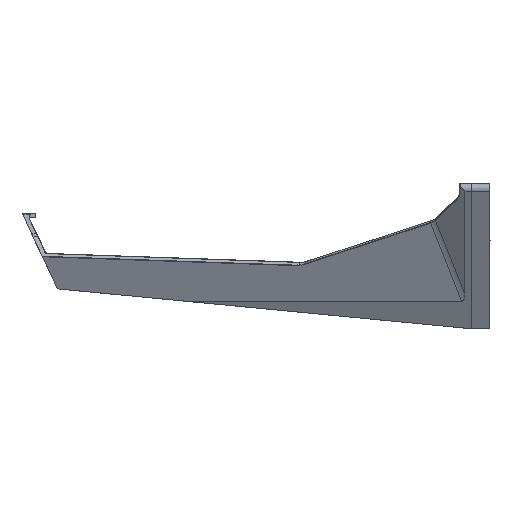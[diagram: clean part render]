
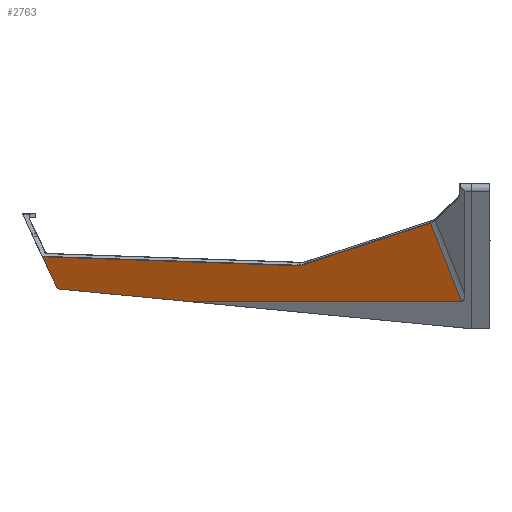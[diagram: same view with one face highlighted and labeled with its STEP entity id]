
A CAD part, left-side view. The second image highlights one B-rep face of the part: STEP entity #2763.
In plain terms, the highlighted planar face has unit normal (-0.906, 0, -0.423).
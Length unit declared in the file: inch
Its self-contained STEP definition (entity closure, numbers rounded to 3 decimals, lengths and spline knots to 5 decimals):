
#1373=FACE_OUTER_BOUND('',#5535,.T.);
#2763=ADVANCED_FACE('',(#1373),#3993,.F.);
#3993=PLANE('',#25480);
#5535=EDGE_LOOP('',(#10808,#10809,#10810,#10811,#10812,#10813,#10814,#10815));
#6212=ELLIPSE('',#25478,0.21491,0.20669);
#6213=ELLIPSE('',#25479,0.29736,0.20669);
#10808=ORIENTED_EDGE('',*,*,#17400,.F.);
#10809=ORIENTED_EDGE('',*,*,#15242,.F.);
#10810=ORIENTED_EDGE('',*,*,#17520,.T.);
#10811=ORIENTED_EDGE('',*,*,#17521,.T.);
#10812=ORIENTED_EDGE('',*,*,#17522,.T.);
#10813=ORIENTED_EDGE('',*,*,#17523,.T.);
#10814=ORIENTED_EDGE('',*,*,#17524,.T.);
#10815=ORIENTED_EDGE('',*,*,#17518,.T.);
#13163=VERTEX_POINT('',#32594);
#13164=VERTEX_POINT('',#32596);
#14565=VERTEX_POINT('',#38024);
#14626=VERTEX_POINT('',#38406);
#14627=VERTEX_POINT('',#38410);
#14628=VERTEX_POINT('',#38412);
#14629=VERTEX_POINT('',#38414);
#14630=VERTEX_POINT('',#38416);
#15242=EDGE_CURVE('',#13163,#13164,#18586,.T.);
#17400=EDGE_CURVE('',#13164,#14565,#20491,.T.);
#17518=EDGE_CURVE('',#14626,#14565,#20557,.T.);
#17520=EDGE_CURVE('',#13163,#14627,#20558,.T.);
#17521=EDGE_CURVE('',#14627,#14628,#20559,.T.);
#17522=EDGE_CURVE('',#14628,#14629,#6212,.T.);
#17523=EDGE_CURVE('',#14629,#14630,#20560,.T.);
#17524=EDGE_CURVE('',#14630,#14626,#6213,.T.);
#18586=LINE('',#32595,#21549);
#20491=LINE('',#38023,#23454);
#20557=LINE('',#38405,#23520);
#20558=LINE('',#38409,#23521);
#20559=LINE('',#38411,#23522);
#20560=LINE('',#38415,#23523);
#21549=VECTOR('',#26214,1.);
#23454=VECTOR('',#30041,1.);
#23520=VECTOR('',#30297,1.);
#23521=VECTOR('',#30302,1.);
#23522=VECTOR('',#30303,1.);
#23523=VECTOR('',#30306,1.);
#25478=AXIS2_PLACEMENT_3D('',#38413,#30304,#30305);
#25479=AXIS2_PLACEMENT_3D('',#38417,#30307,#30308);
#25480=AXIS2_PLACEMENT_3D('',#38418,#30309,#30310);
#26214=DIRECTION('',(-0.045,0.994,0.096));
#30041=DIRECTION('',(-0.389,0.389,0.835));
#30297=DIRECTION('',(-0.016,0.999,0.035));
#30302=DIRECTION('',(0.,-1.,0.));
#30303=DIRECTION('',(-0.398,0.338,0.853));
#30304=DIRECTION('',(0.906,0.,0.423));
#30305=DIRECTION('',(-0.143,-0.941,0.307));
#30306=DIRECTION('',(0.143,0.941,-0.307));
#30307=DIRECTION('',(0.906,0.,0.423));
#30308=DIRECTION('',(0.143,0.941,-0.307));
#30309=DIRECTION('',(0.906,0.,0.423));
#30310=DIRECTION('',(-0.423,0.,0.906));
#32594=CARTESIAN_POINT('',(-2.15948,1.06321,-1.89623));
#32595=CARTESIAN_POINT('',(-2.12188,0.22589,-1.97686));
#32596=CARTESIAN_POINT('',(-2.29153,4.00412,-1.61306));
#38023=CARTESIAN_POINT('',(-2.30319,4.01578,-1.58805));
#38024=CARTESIAN_POINT('',(-2.63467,4.34727,-0.87719));
#38405=CARTESIAN_POINT('',(-2.56455,0.04156,-1.02754));
#38406=CARTESIAN_POINT('',(-2.53967,-1.48674,-1.08091));
#38409=CARTESIAN_POINT('',(-2.15948,0.,-1.89623));
#38410=CARTESIAN_POINT('',(-2.15948,-5.27092,-1.89623));
#38411=CARTESIAN_POINT('',(-3.63116,-4.01868,1.25981));
#38412=CARTESIAN_POINT('',(-2.99426,-4.56062,-0.10604));
#38413=CARTESIAN_POINT('',(-3.07631,-4.48967,0.06991));
#38414=CARTESIAN_POINT('',(-2.99411,-4.55962,-0.10637));
#38415=CARTESIAN_POINT('',(-2.99371,-4.55698,-0.10723));
#38416=CARTESIAN_POINT('',(-2.54991,-1.63674,-1.05896));
#38417=CARTESIAN_POINT('',(-2.63211,-1.5668,-0.88268));
#38418=CARTESIAN_POINT('',(-3.02043,0.,-0.04992));
